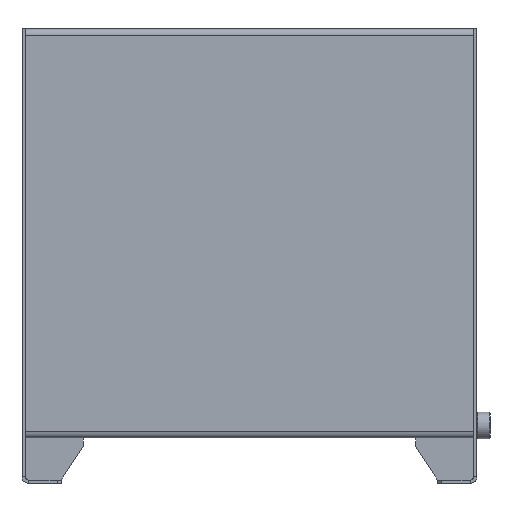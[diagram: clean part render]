
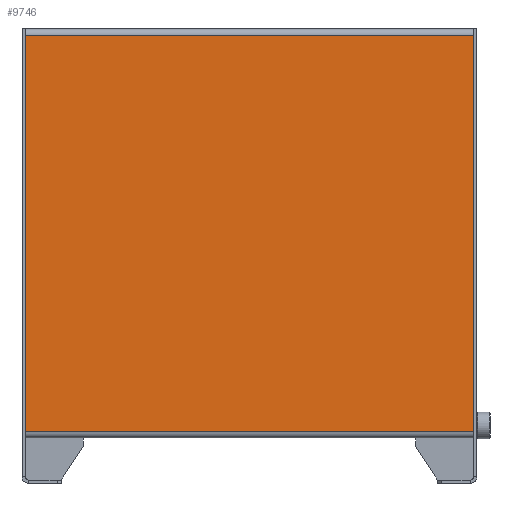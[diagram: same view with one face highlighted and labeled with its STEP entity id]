
A CAD part, front view. The second image highlights one B-rep face of the part: STEP entity #9746.
In plain terms, the highlighted planar face has unit normal (0, -1, 0).
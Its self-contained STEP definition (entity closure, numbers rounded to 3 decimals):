
#619 = CARTESIAN_POINT ( 'NONE',  ( 271., -192.5, 0. ) ) ;
#864 = VECTOR ( 'NONE', #2712, 1000. ) ;
#914 = ORIENTED_EDGE ( 'NONE', *, *, #11078, .F. ) ;
#1462 = VERTEX_POINT ( 'NONE', #2524 ) ;
#2173 = VECTOR ( 'NONE', #2763, 1000. ) ;
#2220 = LINE ( 'NONE', #619, #10892 ) ;
#2524 = CARTESIAN_POINT ( 'NONE',  ( 271., -192.5, 8. ) ) ;
#2712 = DIRECTION ( 'NONE',  ( -1., 0., 0. ) ) ;
#2763 = DIRECTION ( 'NONE',  ( 0., 0., -1. ) ) ;
#3102 = VECTOR ( 'NONE', #8187, 1000. ) ;
#3278 = EDGE_CURVE ( 'NONE', #8615, #8429, #8820, .T. ) ;
#3533 = CARTESIAN_POINT ( 'NONE',  ( -271., -192.5, 8. ) ) ;
#4608 = CARTESIAN_POINT ( 'NONE',  ( -271., -192.5, 8. ) ) ;
#4765 = DIRECTION ( 'NONE',  ( 0., 0., 1. ) ) ;
#4911 = EDGE_LOOP ( 'NONE', ( #11226, #7678, #914, #6480 ) ) ;
#5434 = LINE ( 'NONE', #3533, #864 ) ;
#6480 = ORIENTED_EDGE ( 'NONE', *, *, #6798, .T. ) ;
#6484 = PLANE ( 'NONE',  #10590 ) ;
#6798 = EDGE_CURVE ( 'NONE', #1462, #8260, #2220, .T. ) ;
#7303 = CARTESIAN_POINT ( 'NONE',  ( 271., -192.5, 487. ) ) ;
#7678 = ORIENTED_EDGE ( 'NONE', *, *, #3278, .T. ) ;
#8187 = DIRECTION ( 'NONE',  ( -1., 0., 0. ) ) ;
#8260 = VERTEX_POINT ( 'NONE', #9548 ) ;
#8424 = DIRECTION ( 'NONE',  ( 0., 0., 1. ) ) ;
#8429 = VERTEX_POINT ( 'NONE', #4608 ) ;
#8615 = VERTEX_POINT ( 'NONE', #10094 ) ;
#8820 = LINE ( 'NONE', #9719, #2173 ) ;
#9071 = EDGE_CURVE ( 'NONE', #8260, #8615, #10059, .T. ) ;
#9115 = CARTESIAN_POINT ( 'NONE',  ( 0., -192.5, 0. ) ) ;
#9548 = CARTESIAN_POINT ( 'NONE',  ( 271., -192.5, 487. ) ) ;
#9609 = FACE_OUTER_BOUND ( 'NONE', #4911, .T. ) ;
#9719 = CARTESIAN_POINT ( 'NONE',  ( -271., -192.5, 0. ) ) ;
#9746 = ADVANCED_FACE ( 'NONE', ( #9609 ), #6484, .F. ) ;
#9992 = DIRECTION ( 'NONE',  ( 0., 1., 0. ) ) ;
#10059 = LINE ( 'NONE', #7303, #3102 ) ;
#10094 = CARTESIAN_POINT ( 'NONE',  ( -271., -192.5, 487. ) ) ;
#10590 = AXIS2_PLACEMENT_3D ( 'NONE', #9115, #9992, #4765 ) ;
#10892 = VECTOR ( 'NONE', #8424, 1000. ) ;
#11078 = EDGE_CURVE ( 'NONE', #1462, #8429, #5434, .T. ) ;
#11226 = ORIENTED_EDGE ( 'NONE', *, *, #9071, .T. ) ;
